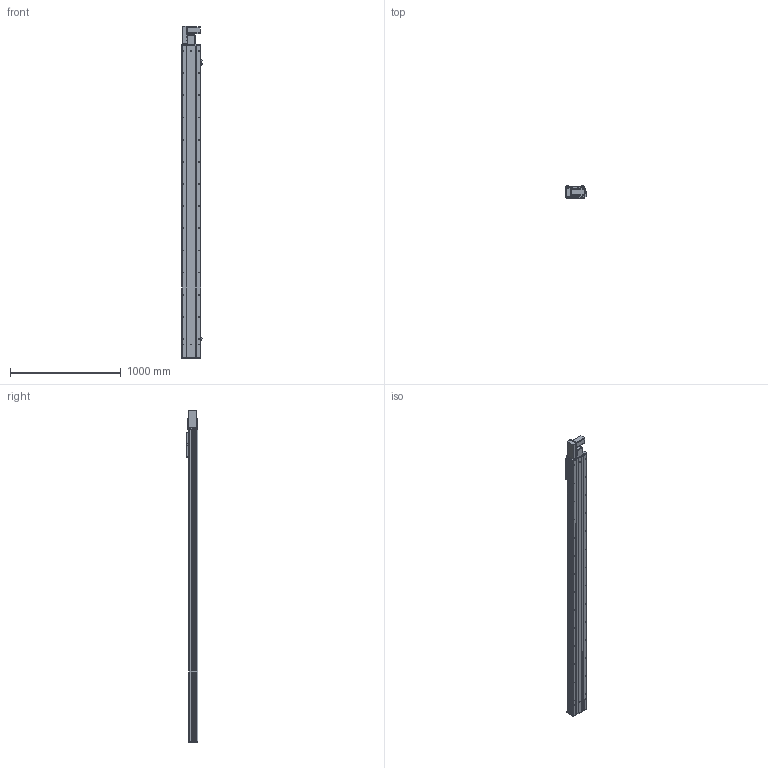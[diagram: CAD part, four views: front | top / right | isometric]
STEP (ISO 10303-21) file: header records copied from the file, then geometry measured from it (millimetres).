
FILE_DESCRIPTION (( 'STEP AP203' ), '1' );
FILE_NAME ('Y170CB-D105-S2500-BL-P400W.STEP', '2020-02-20T01:47:36', ( '微软用户' ), ( '微软中国' ), 'SwSTEP 2.0', 'SolidWorks 2017', '' );
FILE_SCHEMA (( 'CONFIG_CONTROL_DESIGN' ));
Length unit declared in the file: millimetre
Products named in the file (18): Y100-135俋离換覜ん--; 70CB-掛极-; B-源倛裔啣; Y170CB-陔俋离換覜結え---; --70CB --喘謫眊楊擘啣-; 17B-耜蚾蟀諉啣----; 70B喘謫眊----; 70CB-耜裔啣-; 0B-萇儂楊擘啣; Y1埴倛裔; 70C--詩湍揤踡え-; Y170CB-D105-S2500-BL-P400W; 70CB--耜裔; 70C-雄赽釱-奻-; 0C--雄赽釱俋欶-170; san松下电机400不带刹车----; 70CB-詩湍--; Y70俋欶BR----
Assembly tree (21 placements, depth 2):
  Y170CB-D105-S2500-BL-P400W
    B-源倛裔啣
    17B-耜蚾蟀諉啣----
    0B-萇儂楊擘啣
    san松下电机400不带刹车----
    Y70俋欶BR----
    70CB-掛极-
    --70CB --喘謫眊楊擘啣-
    70CB-耜裔啣-  x2
    70C--詩湍揤踡え-  x2
    70CB--耜裔
    70C-雄赽釱-奻-
    0C--雄赽釱俋欶-170
    70CB-詩湍--
    Y100-135俋离換覜ん--  x3
    Y170CB-陔俋离換覜結え---
    70B喘謫眊----
    Y1埴倛裔
Bounding box: 183.5 x 107 x 2997 mm (x, y, z)
Volume: 12442993.1 mm3; surface area: 4491838.7 mm2
Topology: 21 solids, 21 shells, 1071 faces, 2885 edges, 1914 vertices
Faces by surface type: cylinder 583, plane 464, cone 24
Entity records: 34364 total; most frequent: CARTESIAN_POINT 6336, DIRECTION 5590, ORIENTED_EDGE 5252, EDGE_CURVE 2626, AXIS2_PLACEMENT_3D 2064, VERTEX_POINT 1744, VECTOR 1462, LINE 1462
